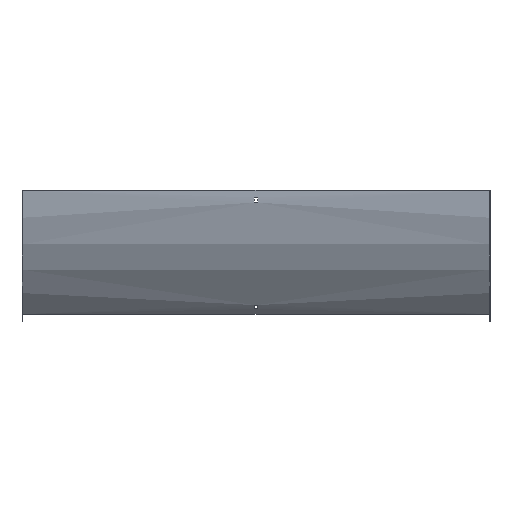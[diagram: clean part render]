
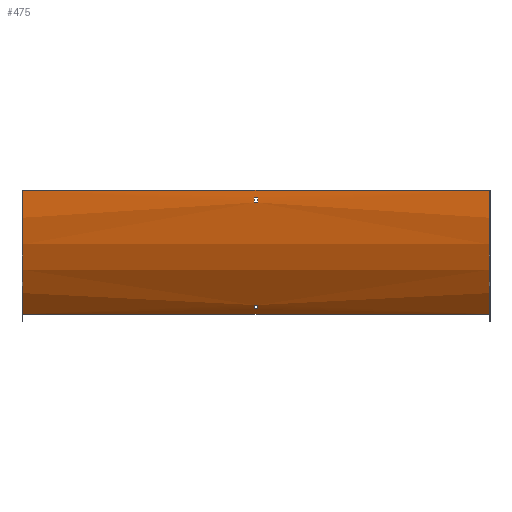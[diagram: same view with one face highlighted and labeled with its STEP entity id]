
A CAD part, front view. The second image highlights one B-rep face of the part: STEP entity #475.
In plain terms, the highlighted cylindrical face has radius 300 mm (diameter 600 mm), a partial arc.
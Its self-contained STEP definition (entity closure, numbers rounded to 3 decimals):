
#3 = EDGE_CURVE ( 'NONE', #428, #43, #112, .T. ) ;
#4 = CARTESIAN_POINT ( 'NONE',  ( 401.5, 298.5, 0. ) ) ;
#5 = VERTEX_POINT ( 'NONE', #164 ) ;
#31 = CARTESIAN_POINT ( 'NONE',  ( -400., 298.5, 0. ) ) ;
#34 = CIRCLE ( 'NONE', #375, 300. ) ;
#43 = VERTEX_POINT ( 'NONE', #212 ) ;
#44 = EDGE_CURVE ( 'NONE', #575, #558, #426, .T. ) ;
#50 = CIRCLE ( 'NONE', #461, 300. ) ;
#51 = VECTOR ( 'NONE', #101, 1000. ) ;
#57 = DIRECTION ( 'NONE',  ( -1., 0., 0. ) ) ;
#62 = CARTESIAN_POINT ( 'NONE',  ( 401.5, 78.052, -203.477 ) ) ;
#68 = EDGE_CURVE ( 'NONE', #428, #575, #588, .T. ) ;
#70 = DIRECTION ( 'NONE',  ( -1., 0., 0. ) ) ;
#86 = CARTESIAN_POINT ( 'NONE',  ( 3.25, 78.052, -203.477 ) ) ;
#95 = ORIENTED_EDGE ( 'NONE', *, *, #44, .F. ) ;
#101 = DIRECTION ( 'NONE',  ( 1., 0., 0. ) ) ;
#106 = ORIENTED_EDGE ( 'NONE', *, *, #494, .F. ) ;
#107 = CARTESIAN_POINT ( 'NONE',  ( 401.5, -0.764, -21. ) ) ;
#110 = ORIENTED_EDGE ( 'NONE', *, *, #502, .T. ) ;
#112 = CIRCLE ( 'NONE', #508, 300. ) ;
#120 = DIRECTION ( 'NONE',  ( -1., 0., 0. ) ) ;
#121 = CARTESIAN_POINT ( 'NONE',  ( -3.25, 298.5, 0. ) ) ;
#122 = DIRECTION ( 'NONE',  ( -1., 0., 0. ) ) ;
#128 = CARTESIAN_POINT ( 'NONE',  ( -3.25, -0.764, -21. ) ) ;
#129 = EDGE_CURVE ( 'NONE', #520, #299, #166, .T. ) ;
#148 = VERTEX_POINT ( 'NONE', #128 ) ;
#158 = EDGE_CURVE ( 'NONE', #346, #161, #581, .T. ) ;
#161 = VERTEX_POINT ( 'NONE', #86 ) ;
#164 = CARTESIAN_POINT ( 'NONE',  ( -3.25, 72.039, -196.762 ) ) ;
#166 = LINE ( 'NONE', #403, #493 ) ;
#181 = DIRECTION ( 'NONE',  ( -1., 0., 0. ) ) ;
#186 = CARTESIAN_POINT ( 'NONE',  ( -3.25, 298.5, 0. ) ) ;
#189 = EDGE_LOOP ( 'NONE', ( #466, #210, #110, #471 ) ) ;
#192 = LINE ( 'NONE', #62, #381 ) ;
#198 = CARTESIAN_POINT ( 'NONE',  ( 401.5, 72.039, -196.762 ) ) ;
#202 = DIRECTION ( 'NONE',  ( -1., 0., 0. ) ) ;
#206 = EDGE_CURVE ( 'NONE', #43, #558, #586, .T. ) ;
#210 = ORIENTED_EDGE ( 'NONE', *, *, #473, .T. ) ;
#212 = CARTESIAN_POINT ( 'NONE',  ( 400., -1.5, 0. ) ) ;
#218 = DIRECTION ( 'NONE',  ( 0., 0., 1. ) ) ;
#227 = DIRECTION ( 'NONE',  ( 0., 0., -1. ) ) ;
#233 = CARTESIAN_POINT ( 'NONE',  ( 400., 86.368, -212.132 ) ) ;
#246 = CARTESIAN_POINT ( 'NONE',  ( 3.25, -1.26, -12. ) ) ;
#250 = CARTESIAN_POINT ( 'NONE',  ( -3.25, 78.052, -203.477 ) ) ;
#265 = CIRCLE ( 'NONE', #276, 300. ) ;
#273 = DIRECTION ( 'NONE',  ( -1., 0., 0. ) ) ;
#276 = AXIS2_PLACEMENT_3D ( 'NONE', #121, #360, #349 ) ;
#277 = EDGE_LOOP ( 'NONE', ( #95, #294, #393, #284 ) ) ;
#284 = ORIENTED_EDGE ( 'NONE', *, *, #206, .T. ) ;
#293 = FACE_BOUND ( 'NONE', #189, .T. ) ;
#294 = ORIENTED_EDGE ( 'NONE', *, *, #68, .F. ) ;
#299 = VERTEX_POINT ( 'NONE', #580 ) ;
#300 = CARTESIAN_POINT ( 'NONE',  ( 3.25, 72.039, -196.762 ) ) ;
#309 = AXIS2_PLACEMENT_3D ( 'NONE', #506, #510, #319 ) ;
#315 = FACE_BOUND ( 'NONE', #577, .T. ) ;
#319 = DIRECTION ( 'NONE',  ( 0., 0., 1. ) ) ;
#324 = ORIENTED_EDGE ( 'NONE', *, *, #129, .F. ) ;
#328 = VECTOR ( 'NONE', #70, 1000. ) ;
#329 = EDGE_CURVE ( 'NONE', #299, #148, #265, .T. ) ;
#330 = DIRECTION ( 'NONE',  ( 1., 0., 0. ) ) ;
#334 = CARTESIAN_POINT ( 'NONE',  ( -400., -1.5, 0. ) ) ;
#336 = AXIS2_PLACEMENT_3D ( 'NONE', #31, #533, #218 ) ;
#339 = VECTOR ( 'NONE', #330, 1000. ) ;
#340 = DIRECTION ( 'NONE',  ( 0., 0., 1. ) ) ;
#346 = VERTEX_POINT ( 'NONE', #300 ) ;
#349 = DIRECTION ( 'NONE',  ( 0., 0., 1. ) ) ;
#359 = CARTESIAN_POINT ( 'NONE',  ( 400., -1.5, 0. ) ) ;
#360 = DIRECTION ( 'NONE',  ( 1., 0., 0. ) ) ;
#370 = CARTESIAN_POINT ( 'NONE',  ( 3.25, -0.764, -21. ) ) ;
#373 = ORIENTED_EDGE ( 'NONE', *, *, #329, .F. ) ;
#375 = AXIS2_PLACEMENT_3D ( 'NONE', #476, #202, #562 ) ;
#379 = CYLINDRICAL_SURFACE ( 'NONE', #487, 300. ) ;
#381 = VECTOR ( 'NONE', #474, 1000. ) ;
#393 = ORIENTED_EDGE ( 'NONE', *, *, #3, .T. ) ;
#397 = VERTEX_POINT ( 'NONE', #370 ) ;
#399 = DIRECTION ( 'NONE',  ( 0., 0., 1. ) ) ;
#403 = CARTESIAN_POINT ( 'NONE',  ( 401.5, -1.26, -12. ) ) ;
#426 = CIRCLE ( 'NONE', #336, 300. ) ;
#428 = VERTEX_POINT ( 'NONE', #233 ) ;
#430 = LINE ( 'NONE', #198, #51 ) ;
#435 = CARTESIAN_POINT ( 'NONE',  ( -400., 86.368, -212.132 ) ) ;
#461 = AXIS2_PLACEMENT_3D ( 'NONE', #186, #273, #227 ) ;
#466 = ORIENTED_EDGE ( 'NONE', *, *, #573, .T. ) ;
#471 = ORIENTED_EDGE ( 'NONE', *, *, #158, .T. ) ;
#473 = EDGE_CURVE ( 'NONE', #602, #5, #50, .T. ) ;
#474 = DIRECTION ( 'NONE',  ( -1., 0., 0. ) ) ;
#475 = ADVANCED_FACE ( 'NONE', ( #315, #505, #293 ), #379, .T. ) ;
#476 = CARTESIAN_POINT ( 'NONE',  ( 3.25, 298.5, 0. ) ) ;
#487 = AXIS2_PLACEMENT_3D ( 'NONE', #4, #57, #340 ) ;
#490 = CARTESIAN_POINT ( 'NONE',  ( 400., 86.368, -212.132 ) ) ;
#493 = VECTOR ( 'NONE', #181, 1000. ) ;
#494 = EDGE_CURVE ( 'NONE', #148, #397, #519, .T. ) ;
#502 = EDGE_CURVE ( 'NONE', #5, #346, #430, .T. ) ;
#505 = FACE_OUTER_BOUND ( 'NONE', #277, .T. ) ;
#506 = CARTESIAN_POINT ( 'NONE',  ( 3.25, 298.5, 0. ) ) ;
#508 = AXIS2_PLACEMENT_3D ( 'NONE', #539, #120, #399 ) ;
#510 = DIRECTION ( 'NONE',  ( 1., 0., 0. ) ) ;
#518 = VECTOR ( 'NONE', #122, 1000. ) ;
#519 = LINE ( 'NONE', #107, #339 ) ;
#520 = VERTEX_POINT ( 'NONE', #246 ) ;
#533 = DIRECTION ( 'NONE',  ( -1., 0., 0. ) ) ;
#539 = CARTESIAN_POINT ( 'NONE',  ( 400., 298.5, 0. ) ) ;
#558 = VERTEX_POINT ( 'NONE', #334 ) ;
#562 = DIRECTION ( 'NONE',  ( 0., 0., -1. ) ) ;
#573 = EDGE_CURVE ( 'NONE', #161, #602, #192, .T. ) ;
#575 = VERTEX_POINT ( 'NONE', #435 ) ;
#576 = ORIENTED_EDGE ( 'NONE', *, *, #605, .F. ) ;
#577 = EDGE_LOOP ( 'NONE', ( #373, #324, #576, #106 ) ) ;
#580 = CARTESIAN_POINT ( 'NONE',  ( -3.25, -1.26, -12. ) ) ;
#581 = CIRCLE ( 'NONE', #309, 300. ) ;
#586 = LINE ( 'NONE', #359, #518 ) ;
#588 = LINE ( 'NONE', #490, #328 ) ;
#602 = VERTEX_POINT ( 'NONE', #250 ) ;
#605 = EDGE_CURVE ( 'NONE', #397, #520, #34, .T. ) ;
